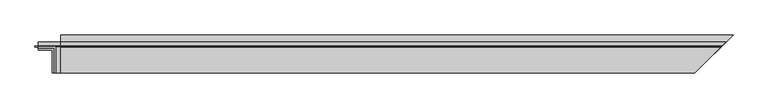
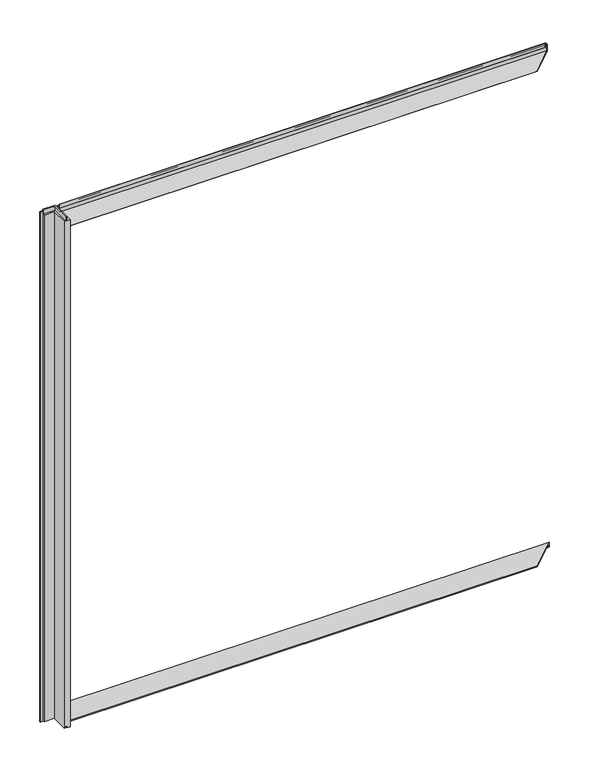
"""IFC4 building model written with IfcOpenShell, lengths in millimetres: plate geometry, Trimo_Qbiss Screen_Wall Opening Trims-HORIZONTAL : HR - B."""

from ifc_helpers import new_model, si_unit, frame, origin, origin_with_axes, place, context, project, spatial, polyline, outline, extrude, faceted_brep, source, transform, mapped, element, save


def plate_71536b31(model_context):
    return source(origin(), model_context, "Body", "SolidModel", [
        faceted_brep([(-1780.4, 71.0, 4487.0), (-1780.4, 100.0, 4487.0), (-1780.4, 100.0, 0.0), (-1780.4, 72.0, 0.0), (-1780.4, 72.0, 15.5), (-1780.4, 62.0, 15.5), (-1780.4, 62.0, 7.0), (-1780.4, 50.0, 7.0), (-1780.4, 50.0, 4487.0), (-1780.4, 63.0, 4487.0), (-1780.4, 63.0, 4524.5), (-1780.4, 71.0, 4524.5), (-1674.4, 71.0, 4487.0), (-1674.4, -92.0, 4487.0), (-1645.4, -92.0, 4487.0), (-1645.4, 100.0, 4487.0), (-1645.4, 100.0, 0.0), (-1645.4, -92.0, 0.0), (-1673.4, -92.0, 0.0), (-1673.4, 72.0, 0.0), (-1673.4, 72.0, 15.5), (-1673.4, -92.0, 15.5), (-1683.4, -92.0, 15.5), (-1683.4, 62.0, 15.5), (-1683.4, 62.0, 7.0), (-1683.4, -92.0, 7.0), (-1695.4, -92.0, 7.0), (-1695.4, 50.0, 7.0), (-1695.4, 50.0, 4487.0), (-1695.4, -92.0, 4487.0), (-1682.4, -92.0, 4487.0), (-1682.4, 63.0, 4487.0), (-1682.4, 63.0, 4524.5), (-1682.4, -92.0, 4524.5), (-1674.4, -92.0, 4524.5), (-1674.4, 71.0, 4524.5)], [[[0, 1, 2, 3, 4, 5, 6, 7, 8, 9, 10, 11]], [[1, 0, 12, 13, 14, 15]], [[2, 1, 15, 16]], [[3, 2, 16, 17, 18, 19]], [[4, 3, 19, 20]], [[5, 4, 20, 21, 22, 23]], [[6, 5, 23, 24]], [[7, 6, 24, 25, 26, 27]], [[8, 7, 27, 28]], [[9, 8, 28, 29, 30, 31]], [[10, 9, 31, 32]], [[11, 10, 32, 33, 34, 35]], [[0, 11, 35, 12]], [[13, 34, 33, 30, 29, 26, 25, 22, 21, 18, 17, 14]], [[16, 15, 14, 17]], [[20, 19, 18, 21]], [[24, 23, 22, 25]], [[28, 27, 26, 29]], [[32, 31, 30, 33]], [[12, 35, 34, 13]]]),
        extrude(outline(polyline([(-1783.4, 76.5978162), (-1783.4, 67.8978162), (-1802.4, 67.8978162), (-1802.4, 76.5978162), (-1783.4, 76.5978162)])), origin_with_axes(), (0.0, 0.0, 1.0), 4510.0),
        faceted_brep([(-1643.4, 71.0, 4487.0), (-1643.4, 100.0, 4487.0), (-1643.4, 100.0, 4429.0), (-1643.4, -92.0, 4429.0), (-1643.4, -92.0, 4430.0), (-1643.4, 99.0, 4430.0), (-1643.4, 99.0, 4486.0), (-1643.4, 70.0, 4486.0), (-1643.4, 70.0, 4524.5), (-1643.4, 71.0, 4524.5), (2426.4, 71.0, 4524.5), (2426.4, 71.0, 4487.0), (2425.4, 70.0, 4524.5), (2425.4, 70.0, 4486.0), (2454.4, 99.0, 4486.0), (2454.4, 99.0, 4430.0), (2263.4, -92.0, 4430.0), (2263.4, -92.0, 4429.0), (2455.4, 100.0, 4429.0), (2455.4, 100.0, 4487.0)], [[[0, 1, 2, 3, 4, 5, 6, 7, 8, 9]], [[0, 9, 10, 11]], [[9, 8, 12, 10]], [[8, 7, 13, 12]], [[7, 6, 14, 13]], [[6, 5, 15, 14]], [[5, 4, 16, 15]], [[4, 3, 17, 16]], [[3, 2, 18, 17]], [[2, 1, 19, 18]], [[1, 0, 11, 19]], [[11, 10, 12, 13, 14, 15, 16, 17, 18, 19]]]),
        faceted_brep([(-1643.4, 138.0, 29.8042278), (-1643.4, -92.0, 49.3568786), (-1643.4, -92.0, 56.3821274), (-1643.4, 145.0, 36.234396), (-1643.4, 145.0, 0.0), (-1643.4, 138.0, 0.0), (2493.4, 138.0, 0.0), (2493.4, 138.0, 29.8042278), (2500.4, 145.0, 0.0), (2500.4, 145.0, 36.234396), (2263.4, -92.0, 56.3821274), (2263.4, -92.0, 49.3568786)], [[[0, 1, 2, 3, 4, 5]], [[0, 5, 6, 7]], [[5, 4, 8, 6]], [[4, 3, 9, 8]], [[3, 2, 10, 9]], [[2, 1, 11, 10]], [[1, 0, 7, 11]], [[7, 6, 8, 9, 10, 11]]]),
        extrude(outline(polyline([(-1780.4, 71.0), (-1780.4, 76.0), (2431.4, 76.0), (2426.4, 71.0), (-1780.4, 71.0)])), frame((0.0, 0.0, 4488.0), z_axis=(0.0, 0.0, 1.0), x_axis=(1.0, 0.0, 0.0)), (0.0, 0.0, 1.0), 21.0),
    ])


if __name__ == "__main__":
    model = new_model("IFC4")
    model_context = context("Model", 3, world=origin())
    ifc_project = project(units=[si_unit("LENGTHUNIT", "METRE", prefix="MILLI")], contexts=[model_context])
    site = spatial("IfcSite", under=ifc_project)
    building = spatial("IfcBuilding", under=site)
    placement = place(None, origin())
    plate_shape = plate_71536b31(model_context)
    element("IfcPlate", 1, ObjectType="Trimo_Qbiss Screen_Wall Opening Trims-HORIZONTAL : HR - B", at=placement, inside=building, context=model_context, shape_type="MappedRepresentation", body=[
        mapped(plate_shape, transform((0.0, 0.0, 0.0), x_axis=(1.0, 0.0, 0.0), y_axis=(0.0, 1.0, 0.0), z_axis=(0.0, 0.0, 1.0))),
    ])
    save(model, "model.ifc")
